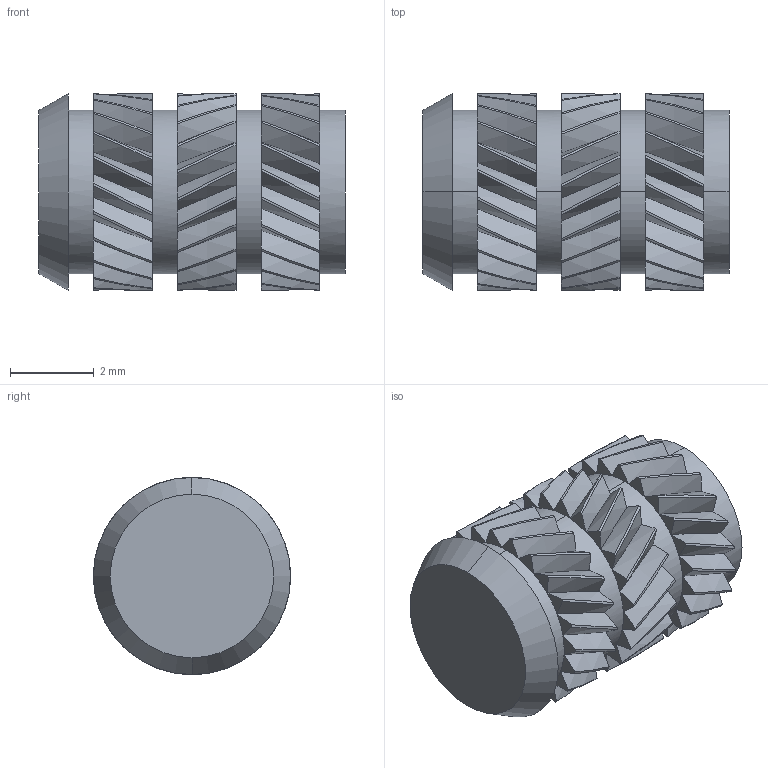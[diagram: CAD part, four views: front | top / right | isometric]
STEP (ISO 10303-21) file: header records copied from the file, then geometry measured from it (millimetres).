
FILE_DESCRIPTION (( 'STEP AP203' ), '1' );
FILE_NAME ('FSUK-BLD-M03.STEP', '2021-04-15T19:25:34', ( '' ), ( '' ), 'SwSTEP 2.0', 'SolidWorks 2021', '' );
FILE_SCHEMA (( 'CONFIG_CONTROL_DESIGN' ));
Length unit declared in the file: millimetre
Products named in the file (1): FSUK-BLD-M03
Bounding box: 7.3 x 4.7 x 4.7 mm (x, y, z)
Volume: 64.4 mm3; surface area: 238.3 mm2
Topology: 1 solids, 1 shells, 354 faces, 783 edges, 431 vertices
Faces by surface type: plane 135, bspline 132, cylinder 81, cone 6
Entity records: 11957 total; most frequent: CARTESIAN_POINT 5650, ORIENTED_EDGE 1562, DIRECTION 1051, EDGE_CURVE 781, AXIS2_PLACEMENT_3D 515, VERTEX_POINT 431, EDGE_LOOP 356, ADVANCED_FACE 354
